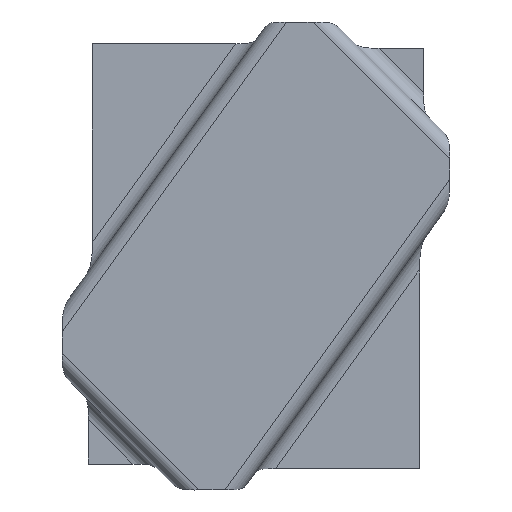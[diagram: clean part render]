
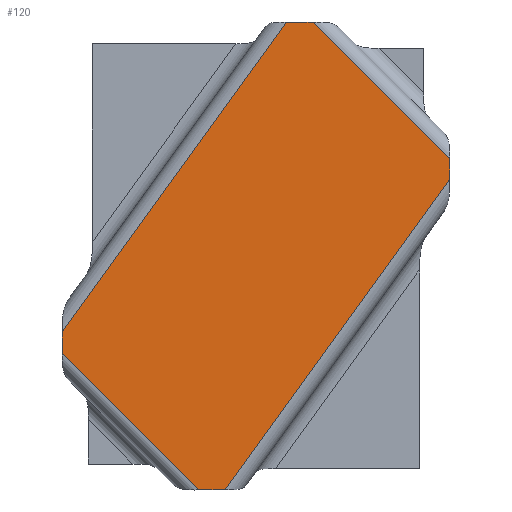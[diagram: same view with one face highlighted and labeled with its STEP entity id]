
A CAD part, top view. The second image highlights one B-rep face of the part: STEP entity #120.
In plain terms, the highlighted planar face has unit normal (0, 0, -1).
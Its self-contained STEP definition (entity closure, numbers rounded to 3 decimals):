
#53=CARTESIAN_POINT('Axis2P3D Location',(-52.084,37.651,64.767)) ;
#59=CARTESIAN_POINT('Control Point',(-52.084,76.859,64.767)) ;
#60=CARTESIAN_POINT('Control Point',(3.429,153.651,64.767)) ;
#61=CARTESIAN_POINT('Vertex',(-52.084,76.859,64.767)) ;
#63=CARTESIAN_POINT('Vertex',(3.429,153.651,64.767)) ;
#66=CARTESIAN_POINT('Line Origine',(-4.084,153.651,64.767)) ;
#70=CARTESIAN_POINT('Vertex',(10.091,153.651,64.767)) ;
#74=CARTESIAN_POINT('Control Point',(10.091,153.651,64.767)) ;
#75=CARTESIAN_POINT('Control Point',(43.916,119.825,64.767)) ;
#76=CARTESIAN_POINT('Vertex',(43.916,119.825,64.767)) ;
#79=CARTESIAN_POINT('Line Origine',(43.916,95.651,64.767)) ;
#83=CARTESIAN_POINT('Vertex',(43.916,114.621,64.767)) ;
#87=CARTESIAN_POINT('Control Point',(43.916,114.621,64.767)) ;
#88=CARTESIAN_POINT('Control Point',(-11.724,37.651,64.767)) ;
#89=CARTESIAN_POINT('Vertex',(-11.724,37.651,64.767)) ;
#92=CARTESIAN_POINT('Line Origine',(-4.084,37.651,64.767)) ;
#96=CARTESIAN_POINT('Vertex',(-18.258,37.651,64.767)) ;
#100=CARTESIAN_POINT('Control Point',(-52.084,71.477,64.767)) ;
#101=CARTESIAN_POINT('Control Point',(-18.258,37.651,64.767)) ;
#102=CARTESIAN_POINT('Vertex',(-52.084,71.477,64.767)) ;
#105=CARTESIAN_POINT('Line Origine',(-52.084,95.651,64.767)) ;
#54=DIRECTION('Axis2P3D Direction',(0.,0.,1.)) ;
#55=DIRECTION('Axis2P3D XDirection',(1.,0.,0.)) ;
#67=DIRECTION('Vector Direction',(1.,0.,0.)) ;
#80=DIRECTION('Vector Direction',(0.,1.,0.)) ;
#93=DIRECTION('Vector Direction',(1.,0.,0.)) ;
#106=DIRECTION('Vector Direction',(0.,1.,0.)) ;
#56=AXIS2_PLACEMENT_3D('Plane Axis2P3D',#53,#54,#55) ;
#111=ORIENTED_EDGE('',*,*,#65,.T.) ;
#112=ORIENTED_EDGE('',*,*,#72,.T.) ;
#113=ORIENTED_EDGE('',*,*,#78,.T.) ;
#114=ORIENTED_EDGE('',*,*,#85,.T.) ;
#115=ORIENTED_EDGE('',*,*,#91,.T.) ;
#116=ORIENTED_EDGE('',*,*,#98,.T.) ;
#117=ORIENTED_EDGE('',*,*,#104,.F.) ;
#118=ORIENTED_EDGE('',*,*,#109,.T.) ;
#68=VECTOR('Line Direction',#67,1.) ;
#81=VECTOR('Line Direction',#80,1.) ;
#94=VECTOR('Line Direction',#93,1.) ;
#107=VECTOR('Line Direction',#106,1.) ;
#120=ADVANCED_FACE('Offset.1',(#119),#57,.F.) ;
#58=B_SPLINE_CURVE_WITH_KNOTS('',1,(#59,#60),.UNSPECIFIED.,.F.,.U.,(2,2),(-47.378,47.378),.UNSPECIFIED.) ;
#73=B_SPLINE_CURVE_WITH_KNOTS('',1,(#74,#75),.UNSPECIFIED.,.F.,.U.,(2,2),(-23.919,23.919),.UNSPECIFIED.) ;
#86=B_SPLINE_CURVE_WITH_KNOTS('',1,(#87,#88),.UNSPECIFIED.,.F.,.U.,(2,2),(-47.488,47.488),.UNSPECIFIED.) ;
#99=B_SPLINE_CURVE_WITH_KNOTS('',1,(#100,#101),.UNSPECIFIED.,.F.,.U.,(2,2),(-23.919,23.919),.UNSPECIFIED.) ;
#65=EDGE_CURVE('',#62,#64,#58,.T.) ;
#72=EDGE_CURVE('',#64,#71,#69,.T.) ;
#78=EDGE_CURVE('',#71,#77,#73,.T.) ;
#85=EDGE_CURVE('',#77,#84,#82,.F.) ;
#91=EDGE_CURVE('',#84,#90,#86,.T.) ;
#98=EDGE_CURVE('',#90,#97,#95,.F.) ;
#104=EDGE_CURVE('',#103,#97,#99,.T.) ;
#109=EDGE_CURVE('',#103,#62,#108,.T.) ;
#110=EDGE_LOOP('',(#111,#112,#113,#114,#115,#116,#117,#118)) ;
#119=FACE_OUTER_BOUND('',#110,.T.) ;
#69=LINE('Line',#66,#68) ;
#82=LINE('Line',#79,#81) ;
#95=LINE('Line',#92,#94) ;
#108=LINE('Line',#105,#107) ;
#57=PLANE('',#56) ;
#62=VERTEX_POINT('',#61) ;
#64=VERTEX_POINT('',#63) ;
#71=VERTEX_POINT('',#70) ;
#77=VERTEX_POINT('',#76) ;
#84=VERTEX_POINT('',#83) ;
#90=VERTEX_POINT('',#89) ;
#97=VERTEX_POINT('',#96) ;
#103=VERTEX_POINT('',#102) ;
